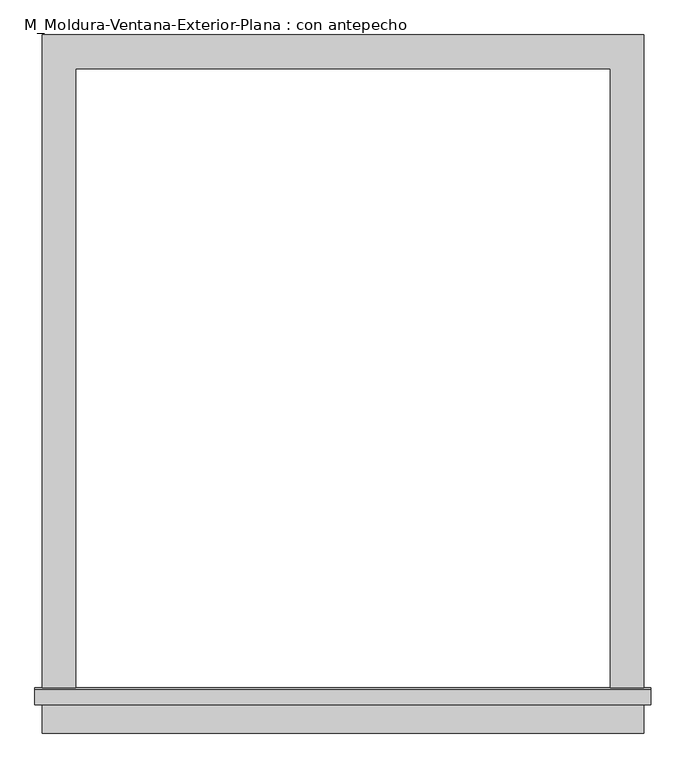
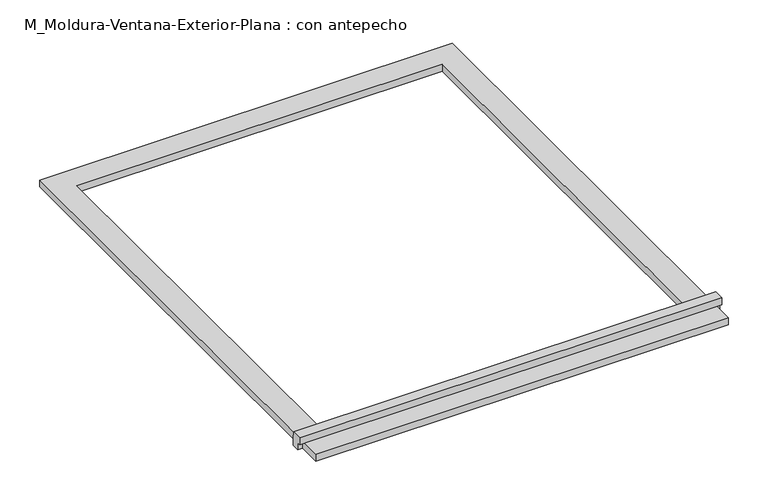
"""IFC4 building model written with IfcOpenShell, lengths in millimetres: proxy geometry, M_Moldura-Ventana-Exterior-Plana : con antepecho."""

from ifc_helpers import new_model, si_unit, frame, origin, origin_with_axes, place, context, project, spatial, polyline, outline, extrude, source, transform, mapped, element, save


def m_moldura_ventana_exterior_plana_con_antepecho_fe713c81(model_context):
    return source(origin(), model_context, "Body", "SweptSolid", [
        extrude(outline(polyline([(535.0, -1120.4323709), (535.0, -1180.4323709), (-535.0, -1180.4323709), (-535.0, -1120.4323709), (535.0, -1120.4323709)])), origin_with_axes(), (0.0, 0.0, 1.0), 19.05),
        extrude(outline(polyline([(-1130.0, 38.1), (-1102.4580645, 38.1), (-1100.0, 19.05), (-1100.0, 0.0), (-1120.4323709, 0.0), (-1120.4323709, 19.05), (-1130.0, 19.05), (-1130.0, 38.1)])), frame((-547.7, 0.0, 0.0), z_axis=(1.0, 0.0, 0.0), x_axis=(0.0, 1.0, 0.0)), (0.0, 0.0, 1.0), 1095.4),
        extrude(outline(polyline([(-535.0, 60.0), (535.0, 60.0), (535.0, -1100.0), (475.0, -1100.0), (475.0, 0.0), (-475.0, 0.0), (-475.0, -1100.0), (-535.0, -1100.0), (-535.0, 60.0)])), origin_with_axes(), (0.0, 0.0, 1.0), 19.05),
    ])


if __name__ == "__main__":
    model = new_model("IFC4")
    model_context = context("Model", 3, world=origin())
    ifc_project = project(units=[si_unit("LENGTHUNIT", "METRE", prefix="MILLI")], contexts=[model_context])
    site = spatial("IfcSite", under=ifc_project)
    building = spatial("IfcBuilding", under=site)
    placement = place(None, origin())
    m_moldura_ventana_exterior_plana_con_antepecho_shape = m_moldura_ventana_exterior_plana_con_antepecho_fe713c81(model_context)
    element("IfcBuildingElementProxy", 1, Name="M_Moldura-Ventana-Exterior-Plana : con antepecho", ObjectType="M_Moldura-Ventana-Exterior-Plana : con antepecho", at=placement, inside=building, context=model_context, shape_type="MappedRepresentation", body=[
        mapped(m_moldura_ventana_exterior_plana_con_antepecho_shape, transform((0.0, 0.0, 0.0), x_axis=(1.0, 0.0, 0.0), y_axis=(0.0, 1.0, 0.0), z_axis=(0.0, 0.0, 1.0))),
    ])
    save(model, "model.ifc")
